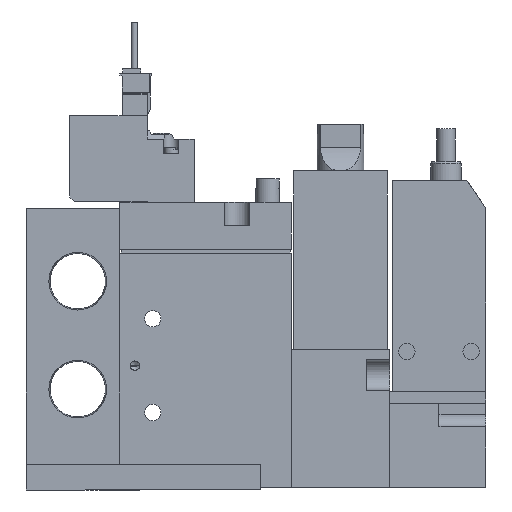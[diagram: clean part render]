
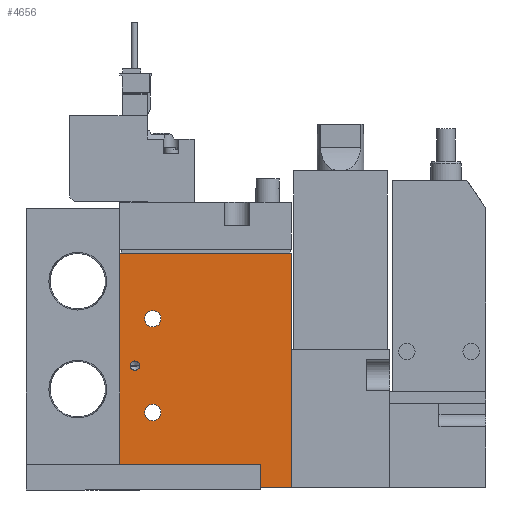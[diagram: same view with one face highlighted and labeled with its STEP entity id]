
A CAD part, left-side view. The second image highlights one B-rep face of the part: STEP entity #4656.
In plain terms, the highlighted planar face has unit normal (-1, 0, 0) as drawn and (1, 0, 0) by its records, which use the part's own axes.
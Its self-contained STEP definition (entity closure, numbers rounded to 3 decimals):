
#4656=ADVANCED_FACE('',(#7248,#7249,#7250,#7251),#7252,.F.);
#7248=FACE_BOUND('',#12410,.T.);
#7249=FACE_BOUND('',#12411,.T.);
#7250=FACE_BOUND('',#12412,.T.);
#7251=FACE_OUTER_BOUND('',#12413,.T.);
#7252=PLANE('',#12414);
#12410=EDGE_LOOP('',(#18551));
#12411=EDGE_LOOP('',(#18552));
#12412=EDGE_LOOP('',(#18553));
#12413=EDGE_LOOP('',(#18554,#18555,#18556,#18557));
#12414=AXIS2_PLACEMENT_3D('',#18558,#18559,#18560);
#18551=ORIENTED_EDGE('',*,*,#35183,.F.);
#18552=ORIENTED_EDGE('',*,*,#35185,.T.);
#18553=ORIENTED_EDGE('',*,*,#35163,.T.);
#18554=ORIENTED_EDGE('',*,*,#35173,.T.);
#18555=ORIENTED_EDGE('',*,*,#35178,.F.);
#18556=ORIENTED_EDGE('',*,*,#35176,.F.);
#18557=ORIENTED_EDGE('',*,*,#35179,.T.);
#18558=CARTESIAN_POINT('',(8.5,-19.444,50.0));
#18559=DIRECTION('',(-1.0,0.0,0.0));
#18560=DIRECTION('',(0.0,0.0,1.0));
#35163=EDGE_CURVE('',#40934,#40934,#40935,.T.);
#35173=EDGE_CURVE('',#40954,#40952,#40955,.T.);
#35176=EDGE_CURVE('',#40957,#40959,#40960,.T.);
#35178=EDGE_CURVE('',#40959,#40952,#40962,.T.);
#35179=EDGE_CURVE('',#40957,#40954,#40963,.T.);
#35183=EDGE_CURVE('',#40970,#40970,#40971,.T.);
#35185=EDGE_CURVE('',#40972,#40972,#40973,.T.);
#40934=VERTEX_POINT('',#50816);
#40935=CIRCLE('',#50817,1.75);
#40952=VERTEX_POINT('',#50838);
#40954=VERTEX_POINT('',#50841);
#40955=LINE('',#50842,#50843);
#40957=VERTEX_POINT('',#50846);
#40959=VERTEX_POINT('',#50849);
#40960=LINE('',#50850,#50851);
#40962=LINE('',#50854,#50855);
#40963=LINE('',#50856,#50857);
#40970=VERTEX_POINT('',#50864);
#40971=CIRCLE('',#50865,1.0);
#40972=VERTEX_POINT('',#50866);
#40973=CIRCLE('',#50867,1.75);
#50816=CARTESIAN_POINT('',(8.5,-10.694,16.0));
#50817=AXIS2_PLACEMENT_3D('',#64186,#64187,#64188);
#50838=CARTESIAN_POINT('',(8.5,17.056,0.0));
#50841=CARTESIAN_POINT('',(8.5,-19.444,0.0));
#50842=CARTESIAN_POINT('',(8.5,-19.444,0.0));
#50843=VECTOR('',#64206,1.0);
#50846=CARTESIAN_POINT('',(8.5,-19.444,50.0));
#50849=CARTESIAN_POINT('',(8.5,17.056,50.0));
#50850=CARTESIAN_POINT('',(8.5,-19.444,50.0));
#50851=VECTOR('',#64209,1.0);
#50854=CARTESIAN_POINT('',(8.5,17.056,50.0));
#50855=VECTOR('',#64211,1.0);
#50856=CARTESIAN_POINT('',(8.5,-19.444,50.0));
#50857=VECTOR('',#64212,1.0);
#50864=CARTESIAN_POINT('',(8.5,-17.244,26.0));
#50865=AXIS2_PLACEMENT_3D('',#64222,#64223,#64224);
#50866=CARTESIAN_POINT('',(8.5,-10.694,36.0));
#50867=AXIS2_PLACEMENT_3D('',#64225,#64226,#64227);
#64186=CARTESIAN_POINT('',(8.5,-12.444,16.0));
#64187=DIRECTION('',(-1.0,0.0,0.0));
#64188=DIRECTION('',(0.0,1.0,0.0));
#64206=DIRECTION('',(0.0,1.0,0.0));
#64209=DIRECTION('',(0.0,1.0,0.0));
#64211=DIRECTION('',(0.0,0.0,-1.0));
#64212=DIRECTION('',(0.0,0.0,-1.0));
#64222=CARTESIAN_POINT('',(8.5,-16.244,26.0));
#64223=DIRECTION('',(1.0,0.,0.0));
#64224=DIRECTION('',(0.,-1.0,0.0));
#64225=CARTESIAN_POINT('',(8.5,-12.444,36.0));
#64226=DIRECTION('',(-1.0,0.0,0.0));
#64227=DIRECTION('',(0.0,1.0,0.0));
